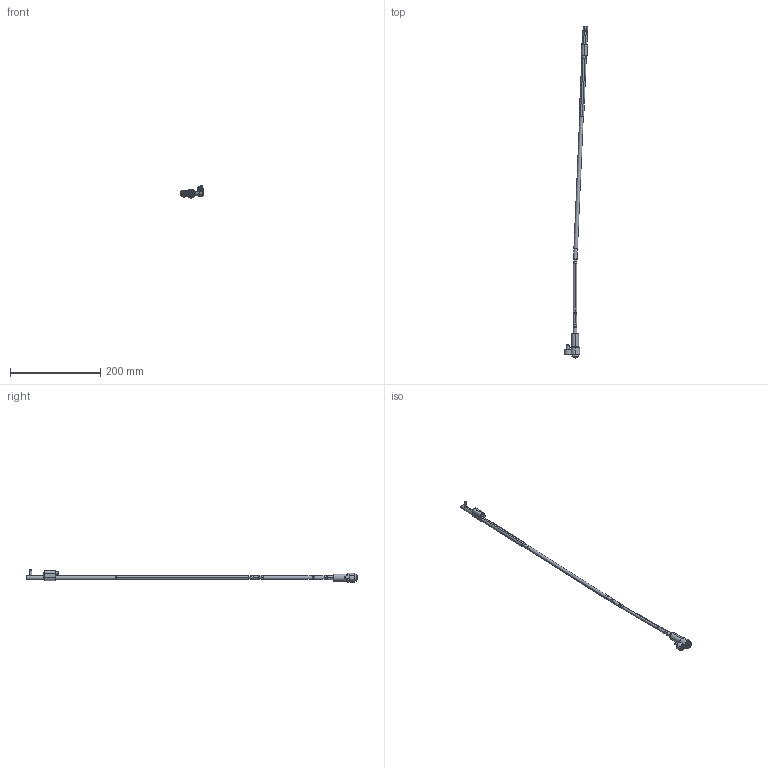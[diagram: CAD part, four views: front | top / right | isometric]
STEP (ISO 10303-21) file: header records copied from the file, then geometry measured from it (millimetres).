
FILE_DESCRIPTION (( 'STEP AP214' ), '1' );
FILE_NAME ('WL080100L-INJ 2,5°.STEP', '2021-03-19T15:26:07', ( '' ), ( '' ), 'SwSTEP 2.0', 'SolidWorks 2019', '' );
FILE_SCHEMA (( 'AUTOMOTIVE_DESIGN' ));
Length unit declared in the file: millimetre
Products named in the file (17): Web-WL08XX-A7_OFF-WL080100-2,5; 1DIN912616_DIN 912 M6 x 16 --- 16C; WL080100L-INJ 2,5°; WL080100-B_WL0800FF; Web-WL08-A1; Web-WL08-F01; WL080100-B1_WL0800FF-1; Web-WL08-A3; Web-WP08-1; WL080100-C; Web-WL08-F00.SLDPRT; Web-WL08-A2; WL080100-E; WL080100-D; 1DIN912545_DIN 912 M5 x 50 --- 50C; 3IMAN4X2-150_con sello; 9DR2206-TOR
Assembly tree (16 placements, depth 3):
  WL080100L-INJ 2,5°
    Web-WP08-1
    Web-WL08XX-A7_OFF-WL080100-2,5
    Web-WL08-A3
    Web-WL08-A2
    Web-WL08-A1
    WL080100-D
    WL080100-C
    WL080100-B_WL0800FF
      WL080100-B1_WL0800FF-1
      3IMAN4X2-150_con sello
    WL080100-E
    9DR2206-TOR
    Web-WL08-F00.SLDPRT
      Web-WL08-F01
      1DIN912545_DIN 912 M5 x 50 --- 50C
      1DIN912616_DIN 912 M6 x 16 --- 16C
Bounding box: 51.77 x 736.7 x 26.9 mm (x, y, z)
Volume: 57313.5 mm3; surface area: 33636 mm2
Topology: 15 solids, 15 shells, 424 faces, 888 edges, 516 vertices
Faces by surface type: plane 132, cylinder 128, cone 116, torus 48
Entity records: 13492 total; most frequent: DIRECTION 2218, CARTESIAN_POINT 2045, ORIENTED_EDGE 1756, AXIS2_PLACEMENT_3D 921, EDGE_CURVE 878, VERTEX_POINT 516, CIRCLE 476, EDGE_LOOP 468
